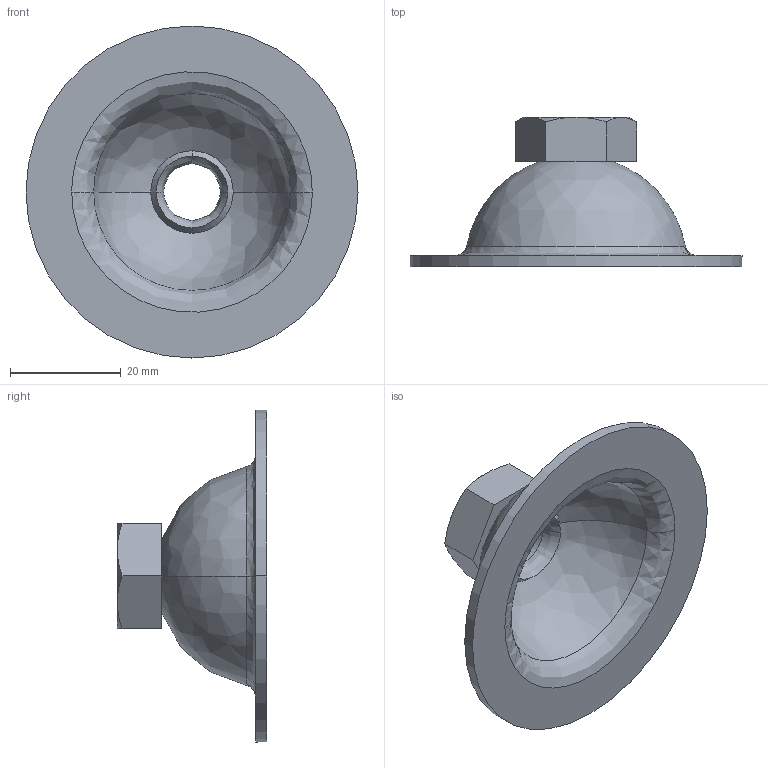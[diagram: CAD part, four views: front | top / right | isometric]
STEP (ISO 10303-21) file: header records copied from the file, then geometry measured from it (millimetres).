
FILE_DESCRIPTION (( 'STEP AP203' ), '1' );
FILE_NAME ('S-NAS-12.STEP', '2013-08-24T04:58:08', ( 'SDS' ), ( 'SDS' ), 'SwSTEP 2.0', 'SolidWorks 2002296', '' );
FILE_SCHEMA (( 'CONFIG_CONTROL_DESIGN' ));
Length unit declared in the file: millimetre
Products named in the file (1): S-NAS-12
Bounding box: 60 x 27 x 60 mm (x, y, z)
Volume: 9316.1 mm3; surface area: 9092.8 mm2
Topology: 1 solids, 1 shells, 34 faces, 78 edges, 48 vertices
Faces by surface type: bspline 12, plane 10, cone 8, cylinder 4
Entity records: 1269 total; most frequent: CARTESIAN_POINT 509, ORIENTED_EDGE 156, DIRECTION 128, EDGE_CURVE 78, AXIS2_PLACEMENT_3D 55, VERTEX_POINT 48, EDGE_LOOP 38, FACE_OUTER_BOUND 34
